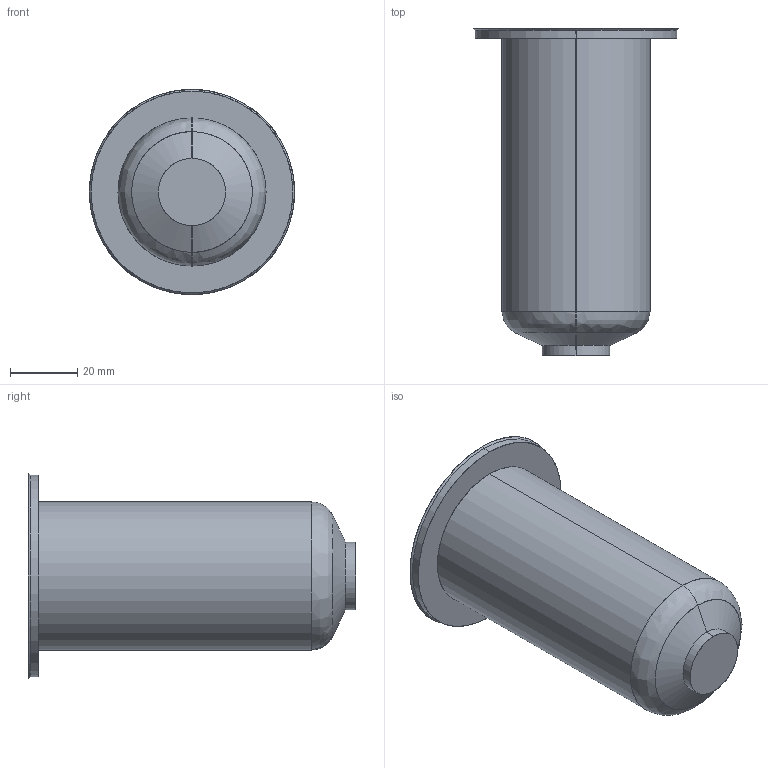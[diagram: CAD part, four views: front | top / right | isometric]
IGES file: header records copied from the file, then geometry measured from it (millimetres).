
Start section: SolidWorks IGES file using analytic representation for surfaces
Global section: file name: C:\Documents and Settings\ws-20\Desktop\TEM\Sede UGER6604-M-A C-94 L-139.IGS; native system: SolidWorks 2012; preprocessor: SolidWorks 2012; author: ws-20; date: 120417.105450; units: millimetre
Bounding box: 61 x 97.24 x 61 mm (x, y, z)
Surface area: 18358.6 mm2 (no closed solid volume)
Topology: 0 solids, 0 shells, 15 faces, 272 edges, 272 vertices
Faces by surface type: revolution 10, bspline 5
